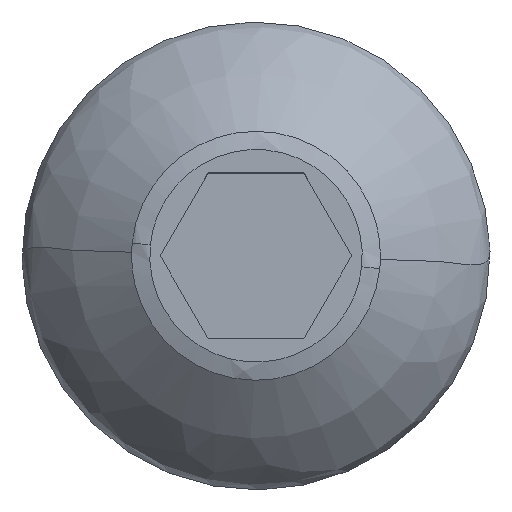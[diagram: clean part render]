
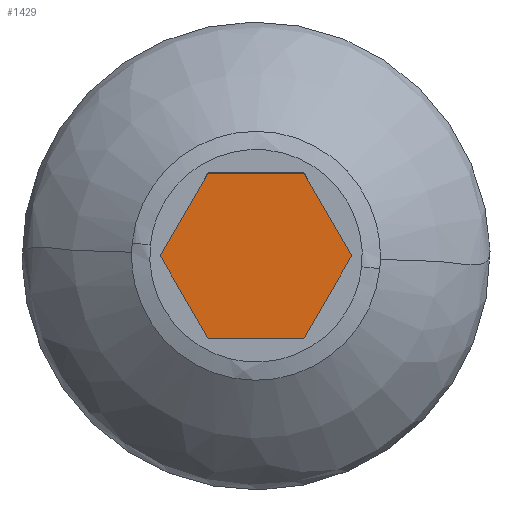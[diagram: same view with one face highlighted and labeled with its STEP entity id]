
A CAD part, top view. The second image highlights one B-rep face of the part: STEP entity #1429.
In plain terms, the highlighted planar face has unit normal (0, 0, 1).
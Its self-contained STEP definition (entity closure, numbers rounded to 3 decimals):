
#176 = VERTEX_POINT ( 'NONE', #3208 ) ;
#419 = EDGE_CURVE ( 'NONE', #3451, #2982, #1396, .T. ) ;
#436 = CARTESIAN_POINT ( 'NONE',  ( 1.443, -2.5, 1. ) ) ;
#461 = DIRECTION ( 'NONE',  ( -0.5, -0.866, 0. ) ) ;
#482 = EDGE_CURVE ( 'NONE', #3532, #176, #2236, .T. ) ;
#510 = DIRECTION ( 'NONE',  ( 1., 0., 0. ) ) ;
#546 = CARTESIAN_POINT ( 'NONE',  ( -2.887, 0., 1. ) ) ;
#569 = ORIENTED_EDGE ( 'NONE', *, *, #3016, .T. ) ;
#612 = AXIS2_PLACEMENT_3D ( 'NONE', #1445, #973, #510 ) ;
#906 = LINE ( 'NONE', #436, #3889 ) ;
#930 = CARTESIAN_POINT ( 'NONE',  ( -1.443, 2.5, 1. ) ) ;
#973 = DIRECTION ( 'NONE',  ( 0., 0., 1. ) ) ;
#1052 = FACE_OUTER_BOUND ( 'NONE', #4534, .T. ) ;
#1116 = ORIENTED_EDGE ( 'NONE', *, *, #1644, .T. ) ;
#1289 = DIRECTION ( 'NONE',  ( -0.5, 0.866, 0. ) ) ;
#1326 = ORIENTED_EDGE ( 'NONE', *, *, #419, .T. ) ;
#1340 = DIRECTION ( 'NONE',  ( -1., 0., 0. ) ) ;
#1396 = LINE ( 'NONE', #930, #1518 ) ;
#1429 = ADVANCED_FACE ( 'NONE', ( #1052 ), #1920, .T. ) ;
#1445 = CARTESIAN_POINT ( 'NONE',  ( 0., 0., 1. ) ) ;
#1518 = VECTOR ( 'NONE', #461, 1000. ) ;
#1644 = EDGE_CURVE ( 'NONE', #2523, #2046, #3987, .T. ) ;
#1729 = VECTOR ( 'NONE', #3048, 1000. ) ;
#1754 = CARTESIAN_POINT ( 'NONE',  ( 2.887, 0., 1. ) ) ;
#1809 = CARTESIAN_POINT ( 'NONE',  ( 1.443, 2.5, 1. ) ) ;
#1830 = ORIENTED_EDGE ( 'NONE', *, *, #2870, .T. ) ;
#1920 = PLANE ( 'NONE',  #612 ) ;
#2046 = VERTEX_POINT ( 'NONE', #2252 ) ;
#2181 = CARTESIAN_POINT ( 'NONE',  ( 2.887, 0., 1. ) ) ;
#2235 = VECTOR ( 'NONE', #1289, 1000. ) ;
#2236 = LINE ( 'NONE', #1754, #2235 ) ;
#2252 = CARTESIAN_POINT ( 'NONE',  ( 1.443, -2.5, 1. ) ) ;
#2293 = LINE ( 'NONE', #1809, #2716 ) ;
#2372 = VECTOR ( 'NONE', #3438, 1000. ) ;
#2523 = VERTEX_POINT ( 'NONE', #4458 ) ;
#2716 = VECTOR ( 'NONE', #1340, 1000. ) ;
#2870 = EDGE_CURVE ( 'NONE', #2982, #2523, #4374, .T. ) ;
#2892 = EDGE_CURVE ( 'NONE', #176, #3451, #2293, .T. ) ;
#2982 = VERTEX_POINT ( 'NONE', #546 ) ;
#3016 = EDGE_CURVE ( 'NONE', #2046, #3532, #906, .T. ) ;
#3048 = DIRECTION ( 'NONE',  ( 1., 0., 0. ) ) ;
#3120 = ORIENTED_EDGE ( 'NONE', *, *, #482, .T. ) ;
#3208 = CARTESIAN_POINT ( 'NONE',  ( 1.443, 2.5, 1. ) ) ;
#3291 = ORIENTED_EDGE ( 'NONE', *, *, #2892, .T. ) ;
#3438 = DIRECTION ( 'NONE',  ( 0.5, -0.866, 0. ) ) ;
#3451 = VERTEX_POINT ( 'NONE', #3584 ) ;
#3514 = CARTESIAN_POINT ( 'NONE',  ( -1.443, -2.5, 1. ) ) ;
#3532 = VERTEX_POINT ( 'NONE', #2181 ) ;
#3584 = CARTESIAN_POINT ( 'NONE',  ( -1.443, 2.5, 1. ) ) ;
#3889 = VECTOR ( 'NONE', #4548, 1000. ) ;
#3906 = CARTESIAN_POINT ( 'NONE',  ( -2.887, 0., 1. ) ) ;
#3987 = LINE ( 'NONE', #3514, #1729 ) ;
#4374 = LINE ( 'NONE', #3906, #2372 ) ;
#4458 = CARTESIAN_POINT ( 'NONE',  ( -1.443, -2.5, 1. ) ) ;
#4534 = EDGE_LOOP ( 'NONE', ( #569, #3120, #3291, #1326, #1830, #1116 ) ) ;
#4548 = DIRECTION ( 'NONE',  ( 0.5, 0.866, 0. ) ) ;
